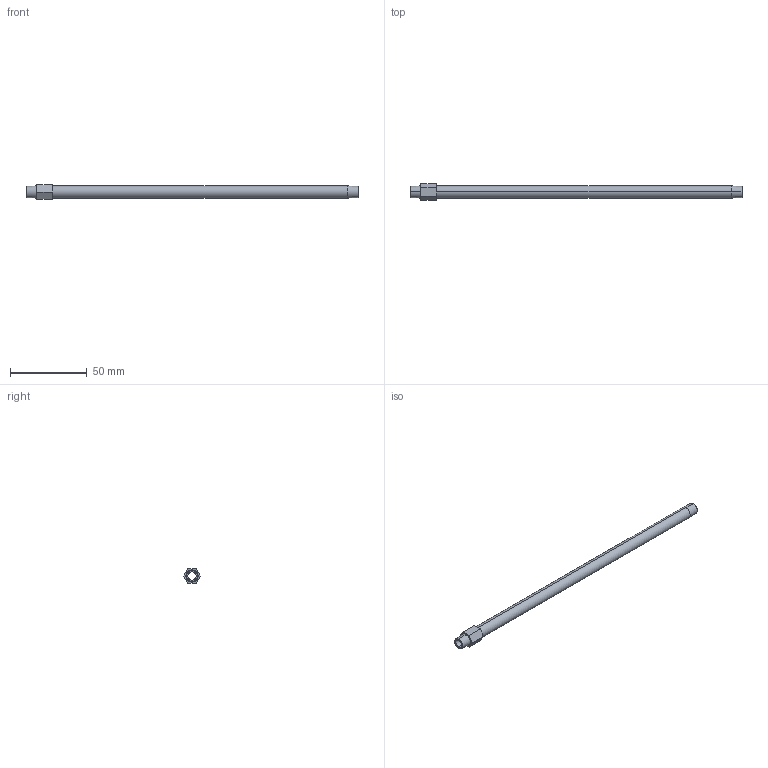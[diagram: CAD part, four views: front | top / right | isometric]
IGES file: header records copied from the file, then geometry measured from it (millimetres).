
Start section: SolidWorks IGES file using analytic representation for surfaces
Global section: file name: C:\Users\365admin\AppData\Local\Temp\InFlowXlateWorking\APN06L8.5.igs; native system: SolidWorks 2018; preprocessor: SolidWorks 2018; author: 365admin; date: 200818.214154; units: inch
Bounding box: 215.9 x 10.85 x 9.4 mm (x, y, z)
Surface area: 9128.4 mm2 (no closed solid volume)
Topology: 0 solids, 0 shells, 18 faces, 260 edges, 260 vertices
Faces by surface type: bspline 10, revolution 8
